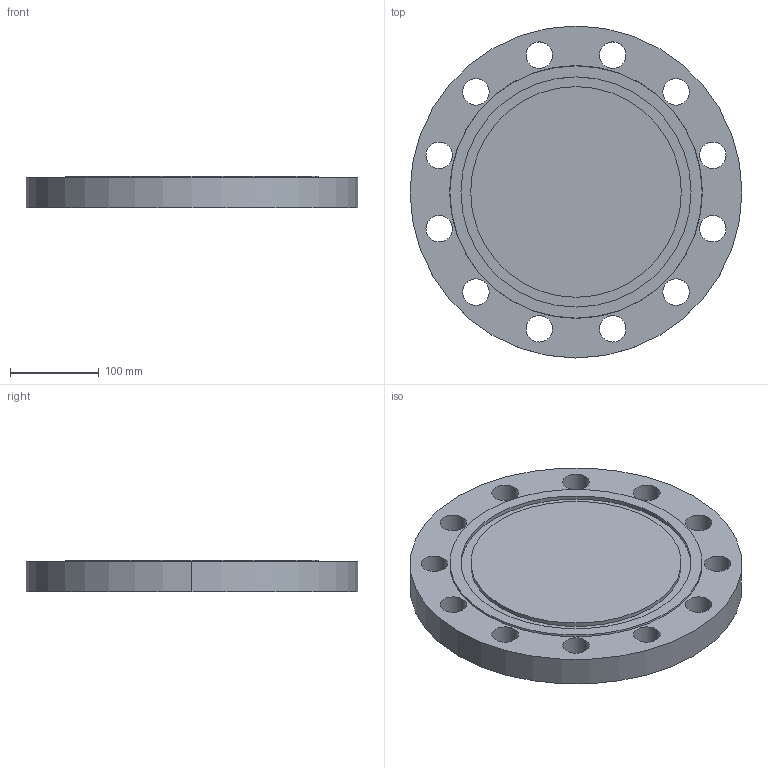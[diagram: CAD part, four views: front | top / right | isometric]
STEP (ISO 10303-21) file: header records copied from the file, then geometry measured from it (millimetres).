
FILE_DESCRIPTION (( 'STEP AP214' ), '1' );
FILE_NAME ('PN40 DN200 Type 05 - Type D Face.STEP', '2019-01-05T02:24:34', ( '' ), ( '' ), 'SwSTEP 2.0', 'SolidWorks 2019', '' );
FILE_SCHEMA (( 'AUTOMOTIVE_DESIGN' ));
Length unit declared in the file: millimetre
Products named in the file (1): PN40 DN200 Type 05 - Type D Face
Bounding box: 375 x 375 x 36 mm (x, y, z)
Volume: 3555969 mm3; surface area: 290981.8 mm2
Topology: 1 solids, 1 shells, 37 faces, 96 edges, 64 vertices
Faces by surface type: cylinder 30, plane 5, cone 2
Entity records: 1256 total; most frequent: DIRECTION 236, CARTESIAN_POINT 198, ORIENTED_EDGE 192, AXIS2_PLACEMENT_3D 102, EDGE_CURVE 96, CIRCLE 64, VERTEX_POINT 64, EDGE_LOOP 64
